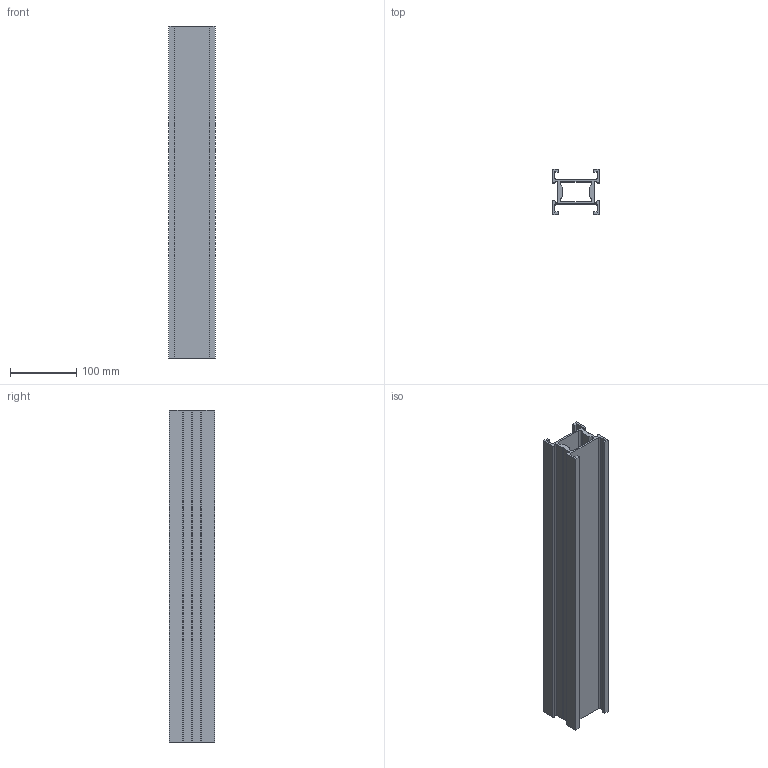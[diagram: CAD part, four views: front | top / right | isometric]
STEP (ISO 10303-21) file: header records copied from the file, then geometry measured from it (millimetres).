
FILE_DESCRIPTION (( 'STEP AP203' ), '1' );
FILE_NAME ('R1PS500.STEP', '2008-11-20T10:18:04', ( 'faber' ), ( '' ), 'SwSTEP 2.0', 'SolidWorks 2008', '' );
FILE_SCHEMA (( 'CONFIG_CONTROL_DESIGN' ));
Length unit declared in the file: millimetre
Products named in the file (1): R1PS500
Bounding box: 70 x 68 x 500 mm (x, y, z)
Volume: 554199.6 mm3; surface area: 294544.3 mm2
Topology: 1 solids, 1 shells, 64 faces, 186 edges, 124 vertices
Faces by surface type: plane 48, cylinder 16
Entity records: 2183 total; most frequent: CARTESIAN_POINT 375, ORIENTED_EDGE 372, DIRECTION 348, EDGE_CURVE 186, LINE 154, VECTOR 154, VERTEX_POINT 124, AXIS2_PLACEMENT_3D 97
